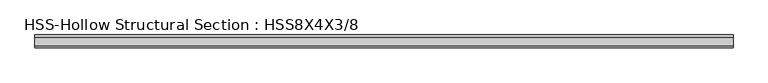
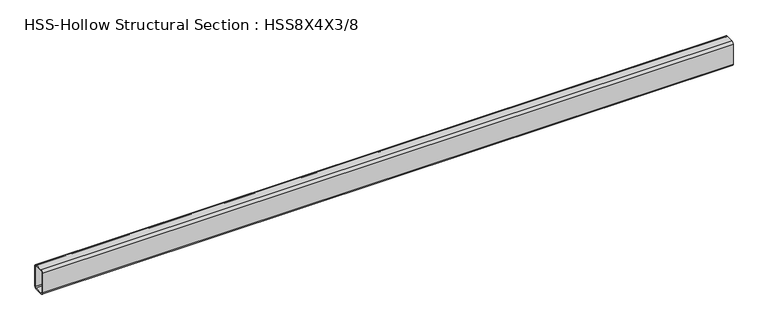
"""IFC4 building model written with IfcOpenShell, lengths in millimetres: beam geometry, HSS-Hollow Structural Section : HSS8X4X3/8."""

from ifc_helpers import new_model, si_unit, point, frame, frame_2d, origin, place, context, project, spatial, polyline, circle_curve, trimmed, segment, composite_curve, outline, extrude, source, transform, mapped, element, save


def hss_hollow_structural_section_hss8x4x3_8_72c25d39(model_context):
    return source(origin(), model_context, "Body", "SweptSolid", [
        extrude(outline(composite_curve([segment(polyline([(50.8, 83.8708), (50.8, -83.8708)]), True, "CONTINUOUS"), segment(trimmed(circle_curve(frame_2d((33.0708, -83.8708)), 17.7292), [point((50.8, -83.8708))], [point((33.0708, -101.6))], False, "CARTESIAN"), True, "CONTINUOUS"), segment(polyline([(33.0708, -101.6), (-33.0708, -101.6)]), True, "CONTINUOUS"), segment(trimmed(circle_curve(frame_2d((-33.0708, -83.8708)), 17.7292), [point((-33.0708, -101.6))], [point((-50.8, -83.8708))], False, "CARTESIAN"), True, "CONTINUOUS"), segment(polyline([(-50.8, -83.8708), (-50.8, 83.8708)]), True, "CONTINUOUS"), segment(trimmed(circle_curve(frame_2d((-33.0708, 83.8708)), 17.7292), [point((-50.8, 83.8708))], [point((-33.0708, 101.6))], False, "CARTESIAN"), True, "CONTINUOUS"), segment(polyline([(-33.0708, 101.6), (33.0708, 101.6)]), True, "CONTINUOUS"), segment(trimmed(circle_curve(frame_2d((33.0708, 83.8708)), 17.7292), [point((33.0708, 101.6))], [point((50.8, 83.8708))], False, "CARTESIAN"), True, "CONTINUOUS")], self_intersect=False), holes=[composite_curve([segment(trimmed(circle_curve(frame_2d((-33.0708, 83.8708)), 8.8646), [point((-33.0708, 92.7354))], [point((-41.9354, 83.8708))], True, "CARTESIAN"), True, "CONTINUOUS"), segment(polyline([(-41.9354, 83.8708), (-41.9354, -83.8708)]), True, "CONTINUOUS"), segment(trimmed(circle_curve(frame_2d((-33.0708, -83.8708)), 8.8646), [point((-41.9354, -83.8708))], [point((-33.0708, -92.7354))], True, "CARTESIAN"), True, "CONTINUOUS"), segment(polyline([(-33.0708, -92.7354), (33.0708, -92.7354)]), True, "CONTINUOUS"), segment(trimmed(circle_curve(frame_2d((33.0708, -83.8708)), 8.8646), [point((33.0708, -92.7354))], [point((41.9354, -83.8708))], True, "CARTESIAN"), True, "CONTINUOUS"), segment(polyline([(41.9354, -83.8708), (41.9354, 83.8708)]), True, "CONTINUOUS"), segment(trimmed(circle_curve(frame_2d((33.0708, 83.8708)), 8.8646), [point((41.9354, 83.8708))], [point((33.0708, 92.7354))], True, "CARTESIAN"), True, "CONTINUOUS"), segment(polyline([(33.0708, 92.7354), (-33.0708, 92.7354)]), True, "CONTINUOUS")], self_intersect=False)]), frame((-2765.6895833, 0.0, 0.0), z_axis=(1.0, 0.0, 0.0), x_axis=(0.0, 1.0, 0.0)), (0.0, 0.0, 1.0), 5511.8),
    ])


if __name__ == "__main__":
    model = new_model("IFC4")
    model_context = context("Model", 3, world=origin())
    ifc_project = project(units=[si_unit("LENGTHUNIT", "METRE", prefix="MILLI")], contexts=[model_context])
    site = spatial("IfcSite", under=ifc_project)
    building = spatial("IfcBuilding", under=site)
    placement = place(None, origin())
    hss_hollow_structural_section_hss8x4x3_8_shape = hss_hollow_structural_section_hss8x4x3_8_72c25d39(model_context)
    element("IfcBeam", 1, ObjectType="HSS-Hollow Structural Section : HSS8X4X3/8", at=placement, inside=building, context=model_context, shape_type="MappedRepresentation", body=[
        mapped(hss_hollow_structural_section_hss8x4x3_8_shape, transform((0.0, 0.0, 0.0), x_axis=(1.0, 0.0, 0.0), y_axis=(0.0, 1.0, 0.0), z_axis=(0.0, 0.0, 1.0))),
    ])
    save(model, "model.ifc")
